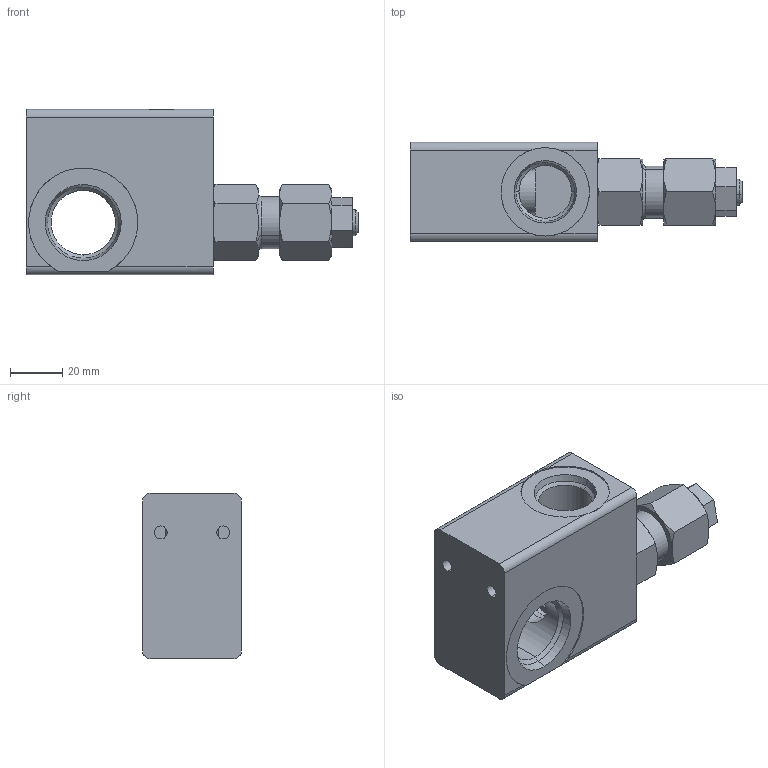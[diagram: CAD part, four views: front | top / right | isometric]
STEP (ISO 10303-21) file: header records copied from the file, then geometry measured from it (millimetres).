
FILE_DESCRIPTION (( 'STEP AP214' ), '1' );
FILE_NAME ('VDA11162.STEP', '2025-05-16T00:31:28', ( '' ), ( '' ), 'SwSTEP 2.0', 'SolidWorks 2023', '' );
FILE_SCHEMA (( 'AUTOMOTIVE_DESIGN' ));
Length unit declared in the file: millimetre
Products named in the file (1): VDA11162
Bounding box: 127.64 x 38.1 x 63.5 mm (x, y, z)
Surface area: 29644.2 mm2 (no closed solid volume)
Topology: 0 solids, 6 shells, 99 faces, 248 edges, 158 vertices
Faces by surface type: plane 41, cone 28, cylinder 26, torus 4
Entity records: 3291 total; most frequent: CARTESIAN_POINT 908, DIRECTION 514, ORIENTED_EDGE 454, EDGE_CURVE 248, AXIS2_PLACEMENT_3D 198, VERTEX_POINT 158, VECTOR 118, LINE 118
